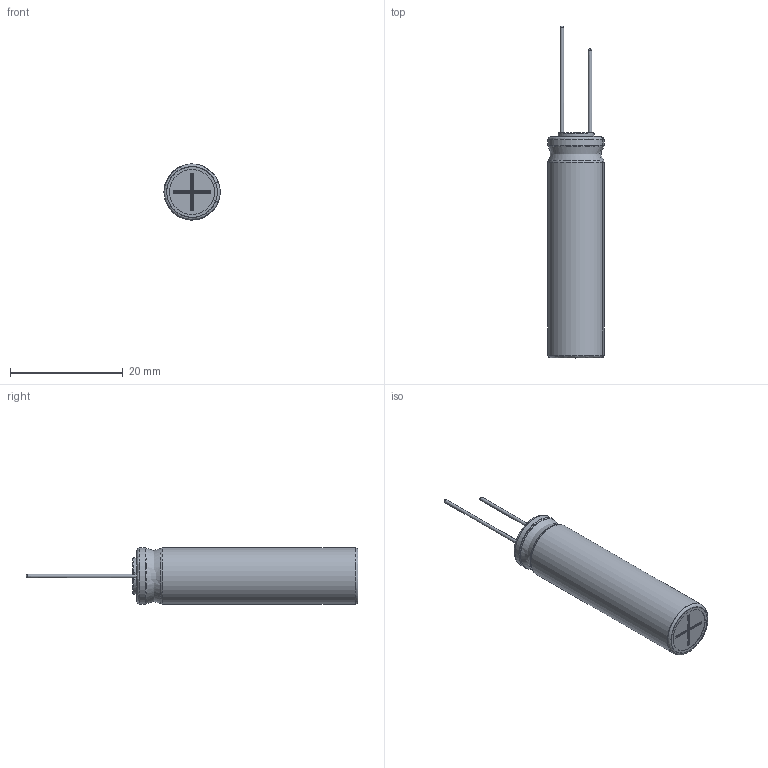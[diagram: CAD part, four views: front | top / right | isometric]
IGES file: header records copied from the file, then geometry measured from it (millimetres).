
Start section: JAMA-IS VERSION  1.0
Bounding box: 9.99 x 59 x 10 mm (x, y, z)
Surface area: 3981 mm2 (no closed solid volume)
Topology: 0 solids, 0 shells, 115 faces, 1315 edges, 1296 vertices
Faces by surface type: bspline 115
